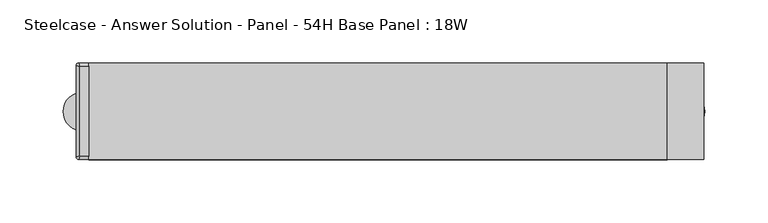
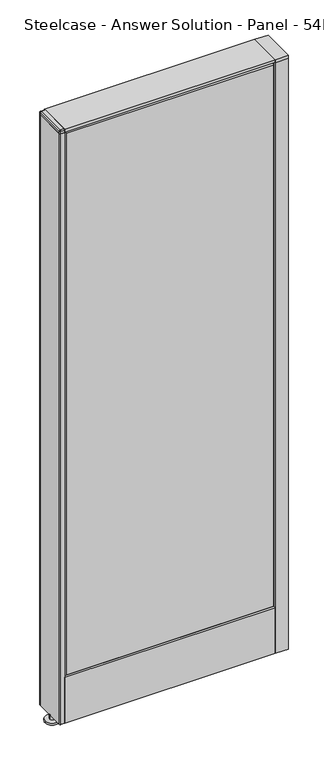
"""IFC4 building model written with IfcOpenShell, lengths in millimetres: furniture geometry, Steelcase - Answer Solution - Panel - 54H Base Panel : 18W."""

from ifc_helpers import new_model, si_unit, point, frame, frame_2d, origin, place, context, project, spatial, polyline, circle_curve, trimmed, segment, composite_curve, outline, extrude, faceted_brep, source, transform, mapped, element, save
from ifc_brep_helpers import plane_surface, spline_surface, advanced_brep


def steelcase_answer_solution_panel_54h_base_panel_18w_ae80dddc(model_context):
    return source(origin(), model_context, "Body", "SolidModel", [
        extrude(outline(composite_curve([segment(trimmed(circle_curve(frame_2d((242.824, 0.0320214)), 5.08), [point((247.904, 0.0320214))], [point((237.744, 0.0320214))], False, "CARTESIAN"), True, "CONTINUOUS"), segment(trimmed(circle_curve(frame_2d((242.824, 0.0320214)), 5.08), [point((237.744, 0.0320214))], [point((247.904, 0.0320214))], False, "CARTESIAN"), True, "CONTINUOUS")], self_intersect=False)), frame((0.0, 0.0, 5.0799671), z_axis=(0.0, 0.0, 1.0), x_axis=(1.0, 0.0, 0.0)), (0.0, 0.0, 1.0), 10.414),
        extrude(outline(composite_curve([segment(trimmed(circle_curve(frame_2d((242.824, 0.0320214)), 15.24), [point((258.064, 0.0320214))], [point((227.584, 0.0320214))], False, "CARTESIAN"), True, "CONTINUOUS"), segment(trimmed(circle_curve(frame_2d((242.824, 0.0320214)), 15.24), [point((227.584, 0.0320214))], [point((258.064, 0.0320214))], False, "CARTESIAN"), True, "CONTINUOUS")], self_intersect=False)), frame((0.0, 0.0, -3.29e-05), z_axis=(0.0, 0.0, 1.0), x_axis=(1.0, 0.0, 0.0)), (0.0, 0.0, 1.0), 5.08),
        extrude(outline(polyline([(257.175, 38.1320408), (257.175, -38.0679592), (228.6, -38.0679592), (228.6, 38.1320408), (257.175, 38.1320408)])), frame((0.0, 0.0, 1370.6348), z_axis=(0.0, 0.0, 1.0), x_axis=(1.0, 0.0, 0.0)), (0.0, 0.0, 1.0), 7.3151671),
        extrude(outline(polyline([(257.175, 38.1320408), (257.175, -38.0679592), (228.6, -38.0679592), (228.6, 38.1320408), (257.175, 38.1320408)])), frame((0.0, 0.0, 15.4939671), z_axis=(0.0, 0.0, 1.0), x_axis=(1.0, 0.0, 0.0)), (0.0, 0.0, 1.0), 1355.1408329),
        extrude(outline(composite_curve([segment(trimmed(circle_curve(frame_2d((-233.68, 0.0320214)), 5.08), [point((-238.76, 0.0320214))], [point((-228.6, 0.0320214))], False, "CARTESIAN"), True, "CONTINUOUS"), segment(trimmed(circle_curve(frame_2d((-233.68, 0.0320214)), 5.08), [point((-228.6, 0.0320214))], [point((-238.76, 0.0320214))], False, "CARTESIAN"), True, "CONTINUOUS")], self_intersect=False)), frame((0.0, 0.0, 5.0799671), z_axis=(0.0, 0.0, 1.0), x_axis=(1.0, 0.0, 0.0)), (0.0, 0.0, 1.0), 10.414),
        extrude(outline(composite_curve([segment(trimmed(circle_curve(frame_2d((-233.68, 0.0320214)), 15.24), [point((-248.92, 0.0320214))], [point((-218.44, 0.0320214))], False, "CARTESIAN"), True, "CONTINUOUS"), segment(trimmed(circle_curve(frame_2d((-233.68, 0.0320214)), 15.24), [point((-218.44, 0.0320214))], [point((-248.92, 0.0320214))], False, "CARTESIAN"), True, "CONTINUOUS")], self_intersect=False)), frame((0.0, 0.0, -3.29e-05), z_axis=(0.0, 0.0, 1.0), x_axis=(1.0, 0.0, 0.0)), (0.0, 0.0, 1.0), 5.08),
        advanced_brep(
        [(-235.9406, -35.2485592, 1377.9499671), (-228.6, -35.2485592, 1377.9499671), (-228.6, 35.3126408, 1377.9499671), (-235.9406, 35.3126408, 1377.9499671), (-236.8151197, -38.0679592, 1376.0704), (-238.76, -36.1230789, 1376.0704), (-238.76, 36.2403105, 1376.0704), (-236.8682696, 38.1320408, 1376.0704), (-228.6, 38.1320408, 1376.0704), (-228.6, -38.0679592, 1376.0704)],
        [
            (0, 1),
            (1, 2),
            (2, 3),
            (3, 0),
            (4, 0),
            (0, 5),
            (5, 4, circle_curve(frame((-236.8151197, -36.1230789, 1376.0704), z_axis=(0.0, 0.0, 1.0), x_axis=(0.0, 1.0, 0.0)), 1.9448803)),
            (3, 6),
            (6, 5),
            (3, 7),
            (7, 6, circle_curve(frame((-236.8682696, 36.2403105, 1376.0704), z_axis=(0.0, 0.0, 1.0), x_axis=(0.0, 1.0, 0.0)), 1.8917304)),
            (2, 8),
            (8, 7),
            (1, 9),
            (9, 8),
            (4, 9),
        ],
        [
            plane_surface(frame((-232.2703, 0.0320408, 1377.9499671), z_axis=(0.0, 0.0, 1.0), x_axis=(0.0, 1.0, 0.0))),
            spline_surface(1, 2, [[(-236.8151197, -38.0679592, 1376.0704), (-238.76, -38.0679592, 1376.0704), (-238.76, -36.1230789, 1376.0704)], [(-235.9406, -35.2485592, 1377.9499671), (-235.9406, -35.2485592, 1377.9499671), (-235.9406, -35.2485592, 1377.9499671)]], [2, 2], [3, 3], [0.0, 1.0], [0.0, 1.0], weights=[[1.0, 0.7071067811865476, 1.0], [1.0, 0.7071067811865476, 1.0]]),
            plane_surface(frame((-238.76, 0.0586158, 1376.0704), z_axis=(-0.554693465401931, 0.0, 0.832054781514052), x_axis=(0.0, 1.0, 0.0))),
            spline_surface(1, 2, [[(-238.76, 36.2403105, 1376.0704), (-238.76000009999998, 38.1320409, 1376.0704), (-236.8682696, 38.1320408, 1376.0704)], [(-235.9406, 35.3126408, 1377.9499671), (-235.9406, 35.3126408, 1377.9499671), (-235.9406, 35.3126408, 1377.9499671)]], [2, 2], [3, 3], [0.0, 1.0], [0.0, 1.0], weights=[[1.0, 0.7071067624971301, 1.0], [1.0, 0.7071067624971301, 1.0]]),
            plane_surface(frame((-232.7341348, 38.1320408, 1376.0704), z_axis=(0.0, 0.5546934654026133, 0.8320547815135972), x_axis=(1.0, 0.0, 0.0))),
            plane_surface(frame((-228.6, 0.0320408, 1376.0704), z_axis=(1.0, 0.0, 0.0), x_axis=(0.0, -1.0, 0.0))),
            plane_surface(frame((-232.7075599, -38.0679592, 1376.0704), z_axis=(0.0, -0.5546934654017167, 0.8320547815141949), x_axis=(-1.0, 0.0, 0.0))),
            plane_surface(frame((-234.7338982, 0.0408991, 1376.0704), z_axis=(0.0, 0.0, -1.0), x_axis=(0.0, 1.0, 0.0))),
        ],
        [
            (0, [[1, 2, 3, 4]]),
            (1, [[5, 6, 7]]),
            (2, [[-6, -4, 8, 9]]),
            (3, [[-8, 10, 11]]),
            (4, [[-10, -3, 12, 13]]),
            (5, [[-12, -2, 14, 15]]),
            (6, [[-14, -1, -5, 16]]),
            (7, [[-7, -9, -11, -13, -15, -16]]),
        ],
    ),
        extrude(outline(composite_curve([segment(trimmed(circle_curve(frame_2d((-236.8682696, 36.2403105)), 1.8917304), [point((-238.76, 36.2403105))], [point((-236.8682696, 38.1320408))], False, "CARTESIAN"), True, "CONTINUOUS"), segment(polyline([(-236.8682696, 38.1320408), (-228.6, 38.1320408), (-228.6, -38.0679592), (-236.8151197, -38.0679592)]), True, "CONTINUOUS"), segment(trimmed(circle_curve(frame_2d((-236.8151197, -36.1230789)), 1.9448803), [point((-236.8151197, -38.0679592))], [point((-238.76, -36.1230789))], False, "CARTESIAN"), True, "CONTINUOUS"), segment(polyline([(-238.76, -36.1230789), (-238.76, 36.2403105)]), True, "CONTINUOUS")], self_intersect=False)), frame((0.0, 0.0, 1370.6348), z_axis=(0.0, 0.0, 1.0), x_axis=(1.0, 0.0, 0.0)), (0.0, 0.0, 1.0), 5.4356),
        extrude(outline(composite_curve([segment(trimmed(circle_curve(frame_2d((-236.8879058, 36.2599466)), 1.8720942), [point((-238.76, 36.2599466))], [point((-236.8879058, 38.1320408))], False, "CARTESIAN"), True, "CONTINUOUS"), segment(polyline([(-236.8879058, 38.1320408), (-228.6, 38.1320408), (-228.6, -38.0679592), (-236.8193552, -38.0679592)]), True, "CONTINUOUS"), segment(trimmed(circle_curve(frame_2d((-236.8193552, -36.1273143)), 1.9406448), [point((-236.8193552, -38.0679592))], [point((-238.76, -36.1273143))], False, "CARTESIAN"), True, "CONTINUOUS"), segment(polyline([(-238.76, -36.1273143), (-238.76, 36.2599466)]), True, "CONTINUOUS")], self_intersect=False)), frame((0.0, 0.0, 15.4939671), z_axis=(0.0, 0.0, 1.0), x_axis=(1.0, 0.0, 0.0)), (0.0, 0.0, 1.0), 1355.1408329),
        faceted_brep([(-223.774, 38.1635011, 1366.774), (223.774, 38.1635011, 1366.774), (223.774, 38.1635011, 125.476), (-223.774, 38.1635011, 125.476), (-228.6, 33.3375011, 1371.6), (-228.6, 33.3375011, 120.65), (228.6, 33.3375011, 120.65), (228.6, 33.3375011, 1371.6)], [[[0, 1, 2, 3]], [[4, 5, 6, 7]], [[4, 7, 1, 0]], [[7, 6, 2, 1]], [[6, 5, 3, 2]], [[5, 4, 0, 3]]]),
        faceted_brep([(223.774, -38.1635011, 1366.774), (-223.774, -38.1635011, 1366.774), (-223.774, -38.1635011, 125.476), (223.774, -38.1635011, 125.476), (228.6, -33.3375011, 1371.6), (228.6, -33.3375011, 120.65), (-228.6, -33.3375011, 120.65), (-228.6, -33.3375011, 1371.6)], [[[0, 1, 2, 3]], [[4, 5, 6, 7]], [[4, 7, 1, 0]], [[7, 6, 2, 1]], [[6, 5, 3, 2]], [[5, 4, 0, 3]]]),
        extrude(outline(polyline([(228.6, 38.1000194), (228.6, -38.1000194), (-228.6, -38.1000194), (-228.6, 38.1000194), (228.6, 38.1000194)])), frame((0.0, 0.0, 1371.6), z_axis=(0.0, 0.0, 1.0), x_axis=(1.0, 0.0, 0.0)), (0.0, 0.0, 1.0), 6.35),
        extrude(outline(polyline([(25.4000011, 119.8575157), (25.4000011, 120.65), (38.1000194, 120.65), (38.1000194, 15.494), (37.3075215, 15.494), (37.3075215, 119.8575157), (25.4000011, 119.8575157)])), frame((-228.6, 0.0, 0.0), z_axis=(1.0, 0.0, 0.0), x_axis=(0.0, 1.0, 0.0)), (0.0, 0.0, 1.0), 457.2),
        extrude(outline(polyline([(-25.4000011, 119.8575157), (-37.3075215, 119.8575157), (-37.3075215, 15.494), (-38.1000194, 15.494), (-38.1000194, 120.65), (-25.4000011, 120.65), (-25.4000011, 119.8575157)])), frame((-228.6, 0.0, 0.0), z_axis=(1.0, 0.0, 0.0), x_axis=(0.0, 1.0, 0.0)), (0.0, 0.0, 1.0), 457.2),
    ])


if __name__ == "__main__":
    model = new_model("IFC4")
    model_context = context("Model", 3, world=origin())
    ifc_project = project(units=[si_unit("LENGTHUNIT", "METRE", prefix="MILLI")], contexts=[model_context])
    site = spatial("IfcSite", under=ifc_project)
    building = spatial("IfcBuilding", under=site)
    placement = place(None, origin())
    steelcase_answer_solution_panel_54h_base_panel_18w_shape = steelcase_answer_solution_panel_54h_base_panel_18w_ae80dddc(model_context)
    element("IfcFurniture", 1, ObjectType="Steelcase - Answer Solution - Panel - 54H Base Panel : 18W", at=placement, inside=building, context=model_context, shape_type="MappedRepresentation", body=[
        mapped(steelcase_answer_solution_panel_54h_base_panel_18w_shape, transform((0.0, 0.0, 0.0), x_axis=(1.0, 0.0, 0.0), y_axis=(0.0, 1.0, 0.0), z_axis=(0.0, 0.0, 1.0))),
    ])
    save(model, "model.ifc")
